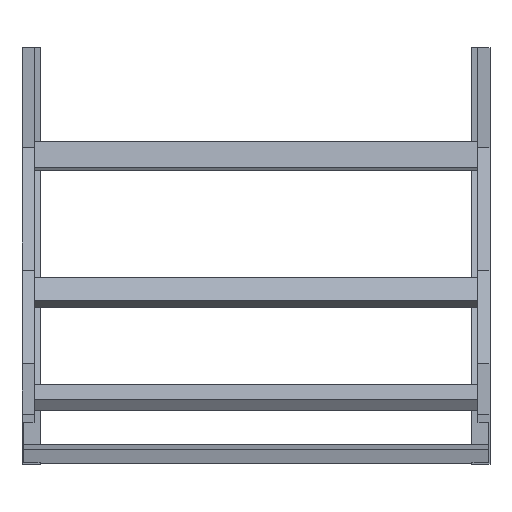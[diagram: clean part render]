
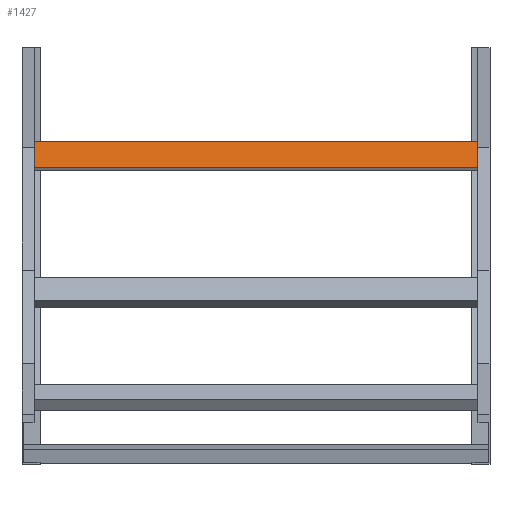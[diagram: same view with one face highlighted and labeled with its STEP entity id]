
A CAD part, top view. The second image highlights one B-rep face of the part: STEP entity #1427.
In plain terms, the highlighted planar face has unit normal (0, 0.195, 0.981) as drawn and (0, 1, 0) by its records, which use the part's own axes.
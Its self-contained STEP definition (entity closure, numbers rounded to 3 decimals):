
#13 = VERTEX_POINT ( 'NONE', #380 ) ;
#181 = ORIENTED_EDGE ( 'NONE', *, *, #1207, .T. ) ;
#216 = VECTOR ( 'NONE', #977, 1000. ) ;
#241 = DIRECTION ( 'NONE',  ( -1., 0., 0. ) ) ;
#252 = CARTESIAN_POINT ( 'NONE',  ( -348., 20., 20.25 ) ) ;
#302 = VECTOR ( 'NONE', #241, 1000. ) ;
#314 = EDGE_LOOP ( 'NONE', ( #1017, #1648, #650, #181 ) ) ;
#380 = CARTESIAN_POINT ( 'NONE',  ( -348., 20., -20.25 ) ) ;
#613 = VERTEX_POINT ( 'NONE', #1577 ) ;
#640 = VERTEX_POINT ( 'NONE', #252 ) ;
#644 = EDGE_CURVE ( 'NONE', #613, #640, #1015, .T. ) ;
#650 = ORIENTED_EDGE ( 'NONE', *, *, #1262, .F. ) ;
#868 = VECTOR ( 'NONE', #1498, 1000. ) ;
#945 = DIRECTION ( 'NONE',  ( -1., 0., 0. ) ) ;
#977 = DIRECTION ( 'NONE',  ( 0., 0., 1. ) ) ;
#1015 = LINE ( 'NONE', #1706, #302 ) ;
#1017 = ORIENTED_EDGE ( 'NONE', *, *, #1743, .T. ) ;
#1024 = PLANE ( 'NONE',  #1370 ) ;
#1062 = VERTEX_POINT ( 'NONE', #1173 ) ;
#1095 = LINE ( 'NONE', #1210, #1336 ) ;
#1173 = CARTESIAN_POINT ( 'NONE',  ( 348., 20., -20.25 ) ) ;
#1195 = CARTESIAN_POINT ( 'NONE',  ( 348., 20., 20.25 ) ) ;
#1207 = EDGE_CURVE ( 'NONE', #1062, #13, #1095, .T. ) ;
#1210 = CARTESIAN_POINT ( 'NONE',  ( 348., 20., -20.25 ) ) ;
#1249 = LINE ( 'NONE', #1821, #868 ) ;
#1262 = EDGE_CURVE ( 'NONE', #1062, #613, #1249, .T. ) ;
#1336 = VECTOR ( 'NONE', #945, 1000. ) ;
#1337 = DIRECTION ( 'NONE',  ( 0., 0., -1. ) ) ;
#1370 = AXIS2_PLACEMENT_3D ( 'NONE', #1195, #1767, #1337 ) ;
#1427 = ADVANCED_FACE ( 'NONE', ( #1471 ), #1024, .F. ) ;
#1471 = FACE_OUTER_BOUND ( 'NONE', #314, .T. ) ;
#1498 = DIRECTION ( 'NONE',  ( 0., 0., 1. ) ) ;
#1577 = CARTESIAN_POINT ( 'NONE',  ( 348., 20., 20.25 ) ) ;
#1648 = ORIENTED_EDGE ( 'NONE', *, *, #644, .F. ) ;
#1691 = CARTESIAN_POINT ( 'NONE',  ( -348., 20., 20.25 ) ) ;
#1706 = CARTESIAN_POINT ( 'NONE',  ( 348., 20., 20.25 ) ) ;
#1730 = LINE ( 'NONE', #1691, #216 ) ;
#1743 = EDGE_CURVE ( 'NONE', #13, #640, #1730, .T. ) ;
#1767 = DIRECTION ( 'NONE',  ( 0., -1., 0. ) ) ;
#1821 = CARTESIAN_POINT ( 'NONE',  ( 348., 20., 20.25 ) ) ;
